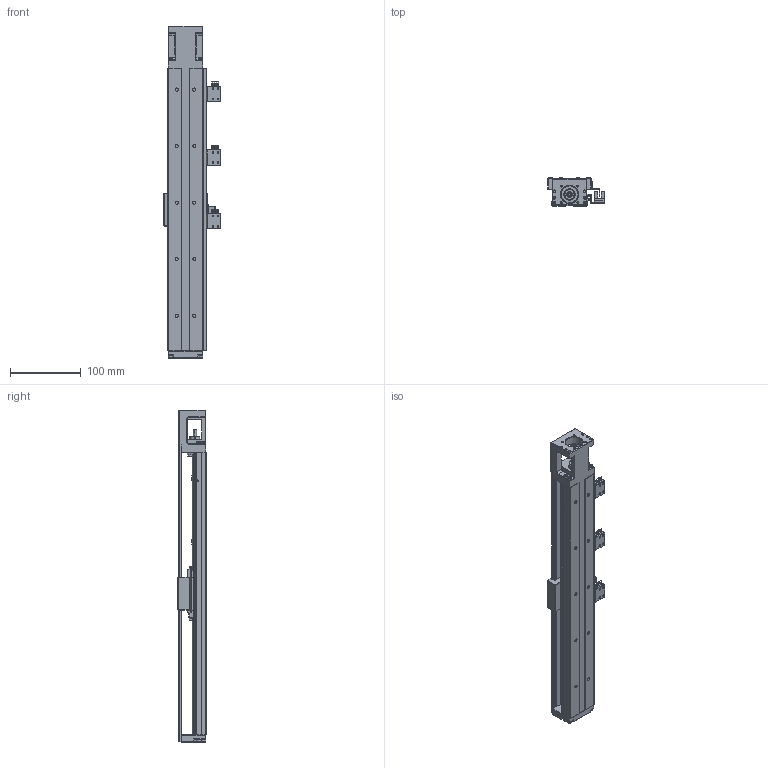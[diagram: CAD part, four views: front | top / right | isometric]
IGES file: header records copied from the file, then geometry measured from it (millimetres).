
Start section: SolidWorks IGES file using analytic representation for surfaces
Global section: file name: C:\Users\Administrator\Desktop\GSX50C-300\ﾓﾐｻｬﾌｨ\GSX50C-MF-400L-ﾓﾐｻｬﾌｨ.IGS; native system: SolidWorks 2013; preprocessor: SolidWorks 2013; author: ｹｾﾇｿ,; organization: 11; date: 170412.141110; units: millimetre
Bounding box: 80.3 x 40 x 470 mm (x, y, z)
Surface area: 200963.9 mm2 (no closed solid volume)
Topology: 0 solids, 0 shells, 1794 faces, 19388 edges, 19248 vertices
Faces by surface type: bspline 1098, revolution 696
